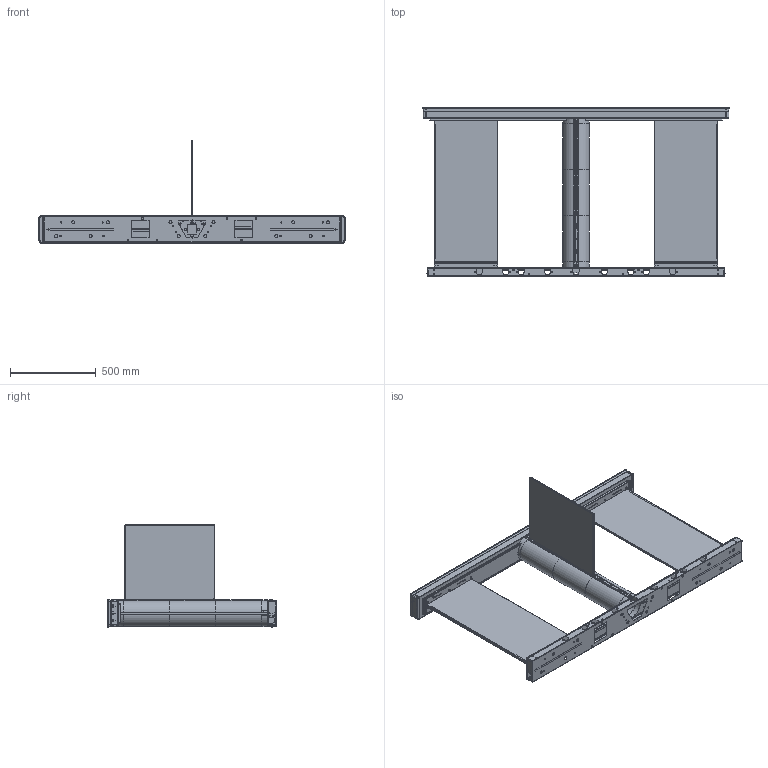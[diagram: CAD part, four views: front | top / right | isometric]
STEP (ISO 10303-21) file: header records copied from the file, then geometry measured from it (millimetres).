
FILE_DESCRIPTION (( 'STEP AP214' ), '1' );
FILE_NAME ('ユニ_サイドS【ワイド】.STEP', '2023-02-27T04:41:27', ( 'cadcl' ), ( 'Hewlett-Packard Company' ), 'SwSTEP 2.0', 'SolidWorks 2022', '' );
FILE_SCHEMA (( 'AUTOMOTIVE_DESIGN' ));
Length unit declared in the file: millimetre
Products named in the file (52): 201-06515-20_露出用ベースカバー取付用; 201-06316-64; 201-06313-82; 201-06315-19; 201-06203-13; 201-06315-04; 201-06315-02; 201-06313-34; 201-06313-83; 201-06515-67; 201-06515-68; 201-06315-68; 201-06315-57; 201-06515-73; 201-06315-32; 201-06527-55; 201-06515-65; 201-06527-41; 201-06315-69; 201-06527-43; 201-06315-66; 201-06515-74; 201-06210-58; 201-06203-15; 201-06203-16; Z01-00599-00; 201-06312-02; 201-06515-66; Z03-00734-00; 201-06316-25; 201-06315-18; 201-06203-14; 201-06203-11; 201-06527-46; 201-06527-51; Z07-00042-00_２．３：２．３; 201-06315-31; 201-06527-57; 201-06204-73; 201-06313-87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
Assembly tree (123 placements, depth 4):
  ユニ_サイドS【ワイド】
    201-06527-46
      201-06527-51
        201-06527-57
        201-06515-85
        201-06527-55
        Z01-00599-00  x12
      201-06316-32
        201-06313-34
      201-06316-33
        201-06203-15
        201-06203-14
      201-06316-25
        201-06203-15
        201-06203-14
      201-06316-23
        201-06210-58
      201-06203-16  x2
      201-06203-13  x2
    201-06515-20_露出用ベースカバー取付用
      201-06313-87
      201-06515-65
      201-06316-64  x2
      201-06515-68  x2
      201-06515-66
        201-06515-67
        201-06527-41
      201-06527-42
        201-06315-57
        201-06527-43
      201-06515-71  x2
      201-06515-73  x4
      201-06515-74
      Z01-00618-00  x16
    201-06315-18  x2
      201-06315-19
    201-06315-31  x2
      201-06315-32
    201-06203-56
    201-06313-82
    201-06313-83
    201-06318-10  x2
    Z01-00618-00  x2
    201-06315-00_デフォルト
      201-06312-02
      201-06315-02  x2
        201-06315-66
        201-06204-73
        201-06203-11
      201-06315-04  x2
        201-06315-67
        201-06204-73
        201-06203-11
      201-06315-68  x2
      201-06315-69  x2
      Z03-00734-00  x19
      Z07-00042-00_２．３：２．３  x8
Bounding box: 1780 x 980 x 596.1 mm (x, y, z)
Volume: 14797351.7 mm3; surface area: 6348566.1 mm2
Topology: 113 solids, 113 shells, 4284 faces, 10794 edges, 6876 vertices
Faces by surface type: plane 2296, cylinder 1662, cone 204, torus 86, bspline 36
Entity records: 77393 total; most frequent: CARTESIAN_POINT 13820, DIRECTION 13124, ORIENTED_EDGE 12444, EDGE_CURVE 6222, AXIS2_PLACEMENT_3D 4594, VERTEX_POINT 4004, VECTOR 3936, LINE 3936
